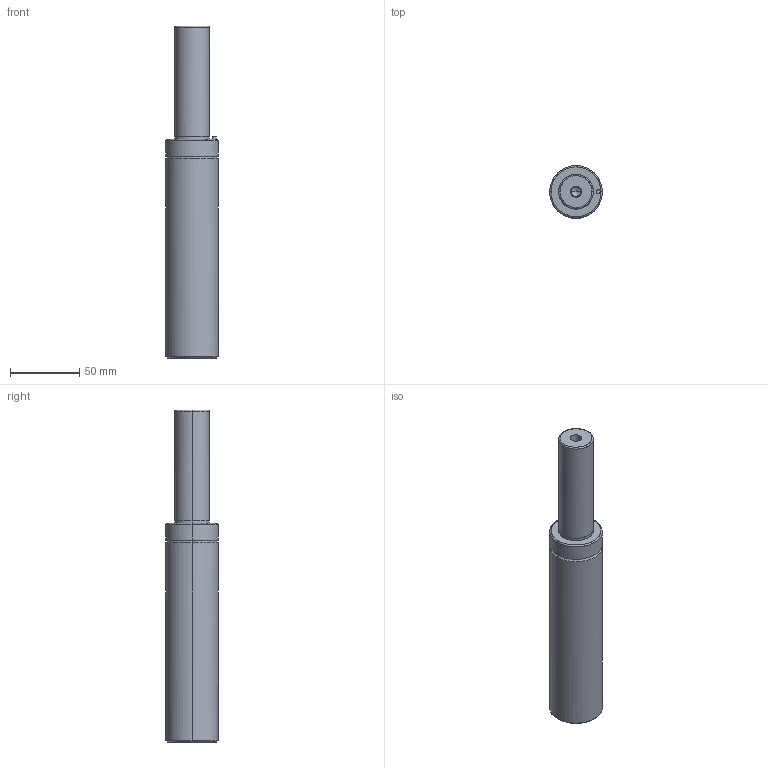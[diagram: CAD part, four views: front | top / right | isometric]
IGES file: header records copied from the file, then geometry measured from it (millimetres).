
Global section: file name: E:\UnigraphicsGraphicData\MISUMI_PRESS-PARTS\IGES\3d_gsm38-80_03906_r00.igs; native system: NX V5.0; preprocessor: UGS NX IGES V5.0; author: MISUMI; date: 20110105.160814; units: millimetre
Bounding box: 38 x 37.9 x 240 mm (x, y, z)
Surface area: 28547.9 mm2 (no closed solid volume)
Topology: 0 solids, 0 shells, 50 faces, 328 edges, 320 vertices
Faces by surface type: bspline 50
